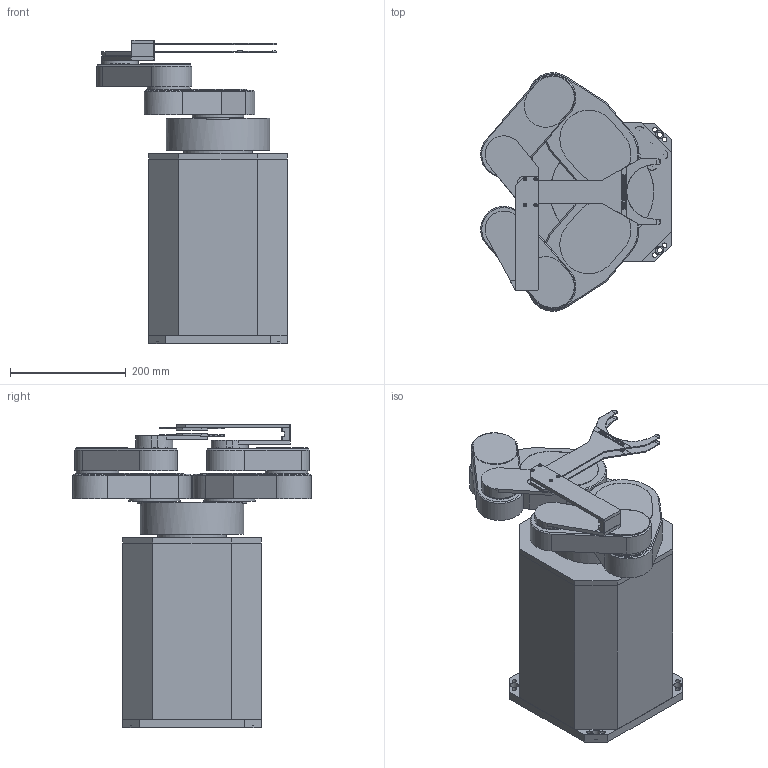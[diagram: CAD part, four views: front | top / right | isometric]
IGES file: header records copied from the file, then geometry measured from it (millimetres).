
Global section: file name: STCR4130S-200-PM-04774A; native system: Autodesk Inventor 2018; preprocessor: unknown; author: m-takamori; date: 20180403.171422; units: millimetre
Bounding box: 329.91 x 412.72 x 526 mm (x, y, z)
Volume: 22424421.4 mm3; surface area: 999636.1 mm2
Topology: 12 solids, 12 shells, 433 faces, 1113 edges, 746 vertices
Faces by surface type: bspline 433
